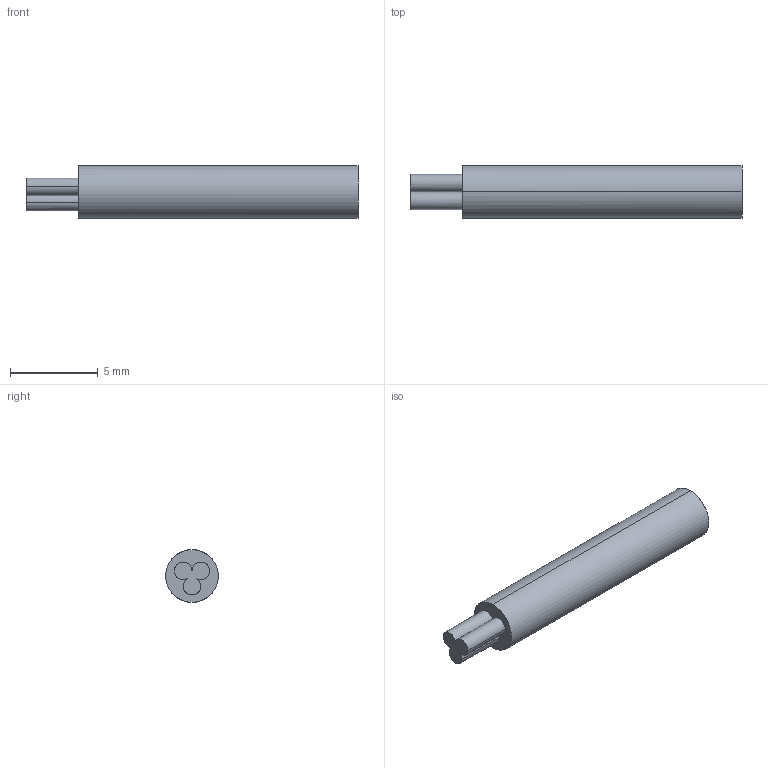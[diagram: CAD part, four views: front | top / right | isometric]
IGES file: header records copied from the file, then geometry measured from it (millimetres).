
Start section: Comment
Global section: file name: IFRM 03xxx03_Q.igs; native system:  By Spatial Corp.; preprocessor: XPlus GENERIC/IGES 3.0; author: Author; organization: Title; date: 20040805.075151; units: inch
Bounding box: 18.9 x 2.99 x 3 mm (x, y, z)
Surface area: 187.6 mm2 (no closed solid volume)
Topology: 0 solids, 0 shells, 11 faces, 52 edges, 52 vertices
Faces by surface type: bspline 11
